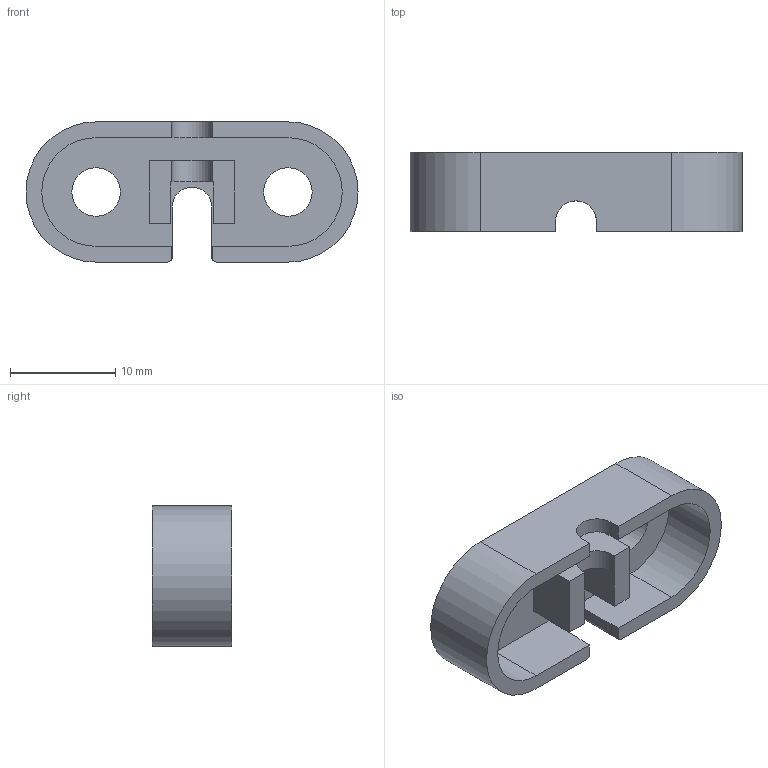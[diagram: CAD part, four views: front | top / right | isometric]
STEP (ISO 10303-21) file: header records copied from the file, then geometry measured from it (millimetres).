
FILE_DESCRIPTION (( 'STEP AP214' ), '1' );
FILE_NAME ('MONO_038-p316_01.STEP', '2025-09-23T04:43:00', ( '' ), ( '' ), 'SwSTEP 2.0', 'SolidWorks 2024', '' );
FILE_SCHEMA (( 'AUTOMOTIVE_DESIGN' ));
Length unit declared in the file: millimetre
Products named in the file (1): MONO_038-p316_01
Bounding box: 31.5 x 7.5 x 13.3 mm (x, y, z)
Volume: 1345.1 mm3; surface area: 1816.7 mm2
Topology: 1 solids, 1 shells, 41 faces, 114 edges, 76 vertices
Faces by surface type: plane 28, cylinder 13
Full cylindrical faces by diameter (mm): 4.6 x2
Entity records: 1343 total; most frequent: CARTESIAN_POINT 244, ORIENTED_EDGE 224, DIRECTION 218, EDGE_CURVE 112, LINE 86, VECTOR 86, VERTEX_POINT 76, AXIS2_PLACEMENT_3D 66
